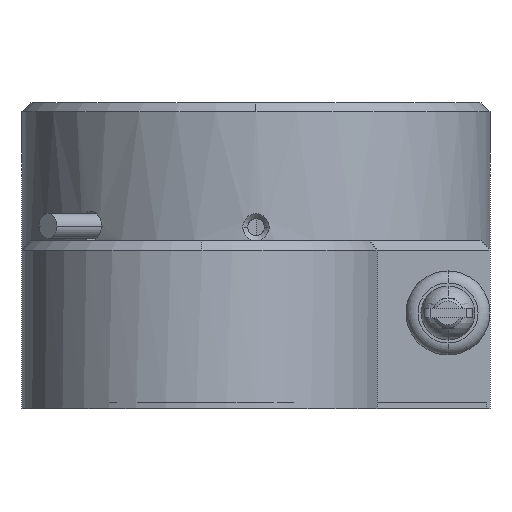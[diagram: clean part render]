
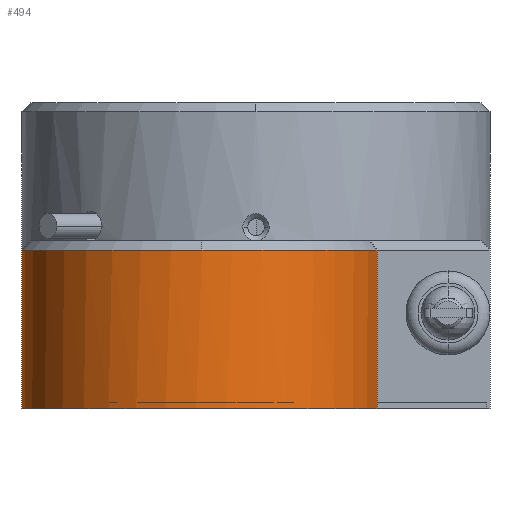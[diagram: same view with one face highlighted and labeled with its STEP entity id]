
A CAD part, left-side view. The second image highlights one B-rep face of the part: STEP entity #494.
In plain terms, the highlighted cylindrical face has radius 30 mm (diameter 60 mm), a partial arc.
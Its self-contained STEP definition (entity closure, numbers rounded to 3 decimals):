
#494=ADVANCED_FACE('',(#1003),#1004,.T.);
#1003=FACE_OUTER_BOUND('',#1547,.T.);
#1004=CYLINDRICAL_SURFACE('',#1548,30.0);
#1547=EDGE_LOOP('',(#2750,#2751,#2752,#2753,#2754));
#1548=AXIS2_PLACEMENT_3D('',#2755,#2756,#2757);
#2750=ORIENTED_EDGE('',*,*,#3329,.F.);
#2751=ORIENTED_EDGE('',*,*,#3343,.T.);
#2752=ORIENTED_EDGE('',*,*,#3278,.T.);
#2753=ORIENTED_EDGE('',*,*,#3467,.T.);
#2754=ORIENTED_EDGE('',*,*,#3012,.F.);
#2755=CARTESIAN_POINT('',(-63.0,9.0,28.0));
#2756=DIRECTION('',(0.0,-0.0,1.0));
#2757=DIRECTION('',(0.0,1.0,0.0));
#3012=EDGE_CURVE('',#3560,#3553,#3562,.T.);
#3278=EDGE_CURVE('',#3995,#4000,#4002,.T.);
#3329=EDGE_CURVE('',#4066,#3560,#4068,.T.);
#3343=EDGE_CURVE('',#4066,#3995,#4085,.T.);
#3467=EDGE_CURVE('',#4000,#3553,#4227,.T.);
#3553=VERTEX_POINT('',#4351);
#3560=VERTEX_POINT('',#4360);
#3562=CIRCLE('',#4363,30.0);
#3995=VERTEX_POINT('',#5290);
#4000=VERTEX_POINT('',#5296);
#4002=CIRCLE('',#5299,30.0);
#4066=VERTEX_POINT('',#5384);
#4068=LINE('',#5387,#5388);
#4085=CIRCLE('',#5411,30.0);
#4227=LINE('',#5816,#5817);
#4351=CARTESIAN_POINT('',(-63.0,39.0,0.0));
#4360=CARTESIAN_POINT('',(-70.0,-20.172,0.0));
#4363=AXIS2_PLACEMENT_3D('',#5914,#5915,#5916);
#5290=CARTESIAN_POINT('',(-93.0,9.0,26.5));
#5296=CARTESIAN_POINT('',(-63.0,39.0,26.5));
#5299=AXIS2_PLACEMENT_3D('',#6315,#6316,#6317);
#5384=CARTESIAN_POINT('',(-70.0,-20.172,26.5));
#5387=CARTESIAN_POINT('',(-70.0,-20.172,28.0));
#5388=VECTOR('',#6379,1000.0);
#5411=AXIS2_PLACEMENT_3D('',#6395,#6396,#6397);
#5816=CARTESIAN_POINT('',(-63.0,39.0,28.0));
#5817=VECTOR('',#6526,1000.0);
#5914=CARTESIAN_POINT('',(-63.0,9.0,0.0));
#5915=DIRECTION('',(0.0,0.0,-1.0));
#5916=DIRECTION('',(1.0,0.0,0.0));
#6315=CARTESIAN_POINT('',(-63.0,9.0,26.5));
#6316=DIRECTION('',(0.0,0.0,-1.0));
#6317=DIRECTION('',(-1.0,0.0,0.0));
#6379=DIRECTION('',(0.0,0.0,-1.0));
#6395=CARTESIAN_POINT('',(-63.0,9.0,26.5));
#6396=DIRECTION('',(0.0,0.0,-1.0));
#6397=DIRECTION('',(-1.0,0.0,0.0));
#6526=DIRECTION('',(0.0,0.0,-1.0));
